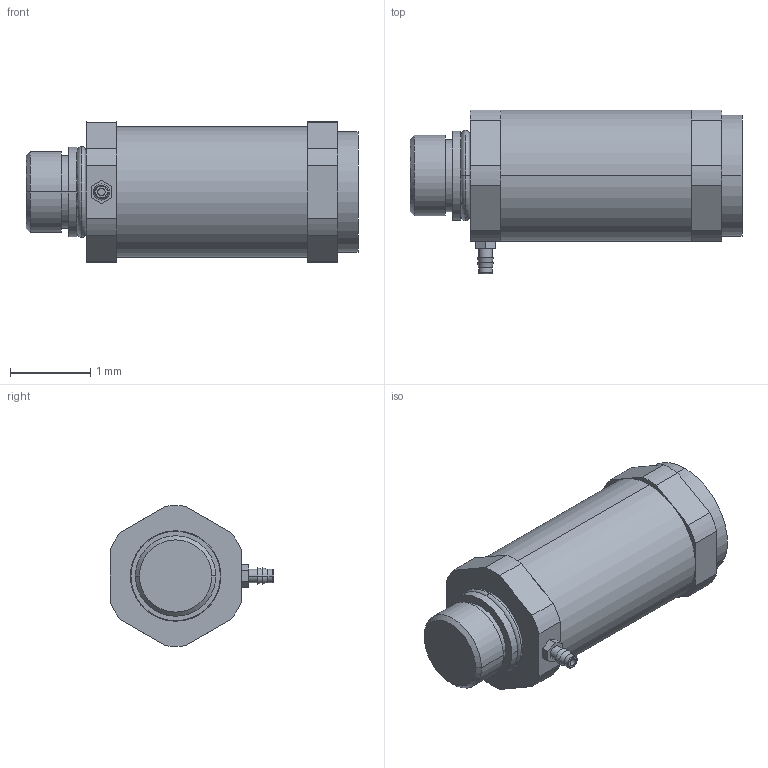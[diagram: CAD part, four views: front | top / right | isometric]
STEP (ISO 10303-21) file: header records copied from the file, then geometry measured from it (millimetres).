
FILE_DESCRIPTION((''),'2;1');
FILE_NAME('XG4.stp','2017-11-07T11:43:02',(''),(''),'Mechanical Desktop 2011','Mechanical Desktop 2011',', , ');
FILE_SCHEMA(('CONFIG_CONTROL_DESIGN'));
Length unit declared in the file: millimetre
Products named in the file (1): Product
Bounding box: 4.12 x 2.03 x 1.75 mm (x, y, z)
Volume: 7.7 mm3; surface area: 38.6 mm2
Topology: 6 solids, 6 shells, 77 faces, 170 edges, 110 vertices
Faces by surface type: plane 35, cylinder 30, torus 6, cone 6
Entity records: 2237 total; most frequent: DIRECTION 406, CARTESIAN_POINT 358, ORIENTED_EDGE 340, EDGE_CURVE 170, AXIS2_PLACEMENT_3D 158, VERTEX_POINT 110, VECTOR 90, LINE 90
